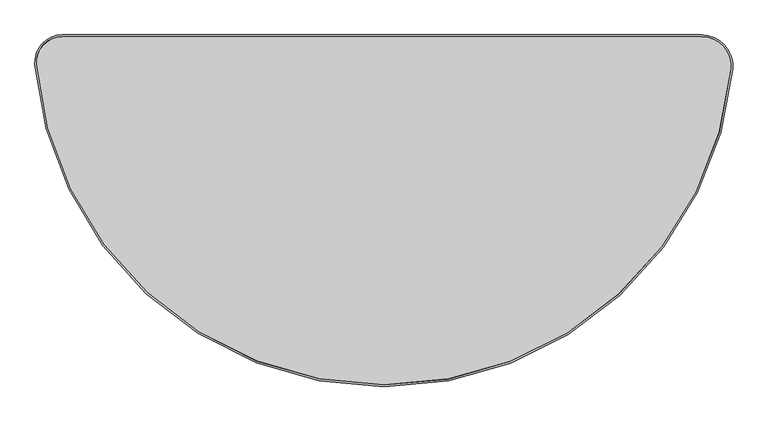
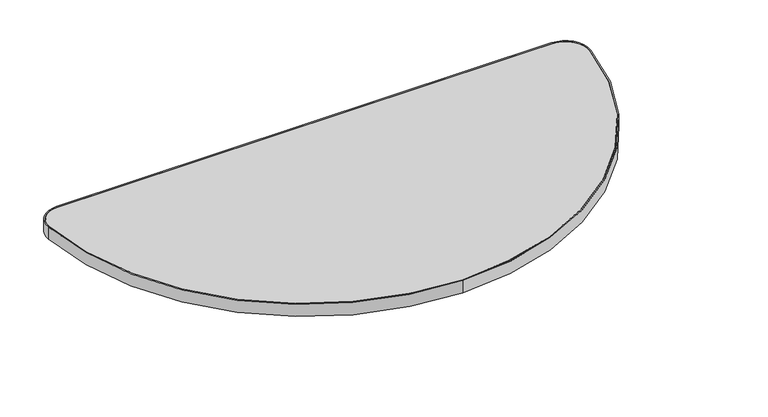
"""IFC4 building model written with IfcOpenShell, lengths in millimetres: furniture geometry, Steelcase - Groupwork - Table - Top - Half Round : 24D x 48W - HPL."""

from ifc_helpers import new_model, si_unit, point, frame, frame_2d, origin, place, context, project, spatial, polyline, circle_curve, trimmed, segment, composite_curve, outline, extrude, source, transform, mapped, element, save


def furniture_5754c508(model_context):
    return source(origin(), model_context, "Body", "SweptSolid", [
        extrude(outline(composite_curve([segment(polyline([(-555.8358043, 3.048), (551.3029021, 3.048)]), True, "CONTINUOUS"), segment(trimmed(circle_curve(frame_2d((551.3029021, -51.054)), 54.102), [point((551.3029021, 3.048))], [point((605.1756856, -56.0288966))], False, "CARTESIAN"), True, "CONTINUOUS"), segment(trimmed(circle_curve(frame_2d((1.1934925, -0.254)), 606.552), [point((605.1756856, -56.0288966))], [point((1.1934925, -606.806))], False, "CARTESIAN"), True, "CONTINUOUS"), segment(trimmed(circle_curve(frame_2d((1.1934925, -0.254)), 606.552), [point((1.1934925, -606.806))], [point((-603.4364897, -48.5024545))], False, "CARTESIAN"), True, "CONTINUOUS"), segment(trimmed(circle_curve(frame_2d((-555.8358043, -44.704)), 47.752), [point((-603.4364897, -48.5024545))], [point((-555.8358043, 3.048))], False, "CARTESIAN"), True, "CONTINUOUS")], self_intersect=False), holes=[composite_curve([segment(trimmed(circle_curve(frame_2d((1.1934925, -0.254)), 603.5801999), [point((1.1934925, -603.8341999))], [point((602.2164763, -55.7556276))], True, "CARTESIAN"), True, "CONTINUOUS"), segment(trimmed(circle_curve(frame_2d((551.3029021, -51.054)), 51.1301999), [point((602.2164763, -55.7556276))], [point((551.3029021, 0.0761999))], True, "CARTESIAN"), True, "CONTINUOUS"), segment(polyline([(551.3029021, 0.0761999), (-555.8358043, 0.0761999)]), True, "CONTINUOUS"), segment(trimmed(circle_curve(frame_2d((-555.8358043, -44.704)), 44.7801999), [point((-555.8358043, 0.0761999))], [point((-600.4741065, -48.2660614))], True, "CARTESIAN"), True, "CONTINUOUS"), segment(trimmed(circle_curve(frame_2d((1.1934925, -0.254)), 603.5801999), [point((-600.4741065, -48.2660614))], [point((1.1934925, -603.8341999))], True, "CARTESIAN"), True, "CONTINUOUS")], self_intersect=False)]), frame((0.0, 0.0, 695.579), z_axis=(0.0, 0.0, 1.0), x_axis=(1.0, 0.0, 0.0)), (0.0, 0.0, 1.0), 28.702),
        extrude(outline(composite_curve([segment(trimmed(circle_curve(frame_2d((551.3029021, -51.054)), 50.8), [point((551.3029021, -0.254))], [point((601.8876754, -55.7252644))], False, "CARTESIAN"), True, "CONTINUOUS"), segment(trimmed(circle_curve(frame_2d((1.1934925, -0.254)), 603.25), [point((601.8876754, -55.7252644))], [point((1.1934925, -603.504))], False, "CARTESIAN"), True, "CONTINUOUS"), segment(trimmed(circle_curve(frame_2d((1.1934925, -0.254)), 603.25), [point((1.1934925, -603.504))], [point((-600.1449529, -48.2397955))], False, "CARTESIAN"), True, "CONTINUOUS"), segment(trimmed(circle_curve(frame_2d((-555.8358043, -44.704)), 44.45), [point((-600.1449529, -48.2397955))], [point((-555.8358043, -0.254))], False, "CARTESIAN"), True, "CONTINUOUS"), segment(polyline([(-555.8358043, -0.254), (551.3029021, -0.254)]), True, "CONTINUOUS")], self_intersect=False)), frame((0.0, 0.0, 695.579), z_axis=(0.0, 0.0, 1.0), x_axis=(1.0, 0.0, 0.0)), (0.0, 0.0, 1.0), 28.702),
    ])


if __name__ == "__main__":
    model = new_model("IFC4")
    model_context = context("Model", 3, world=origin())
    ifc_project = project(units=[si_unit("LENGTHUNIT", "METRE", prefix="MILLI")], contexts=[model_context])
    site = spatial("IfcSite", under=ifc_project)
    building = spatial("IfcBuilding", under=site)
    placement = place(None, origin())
    furniture_shape = furniture_5754c508(model_context)
    element("IfcFurniture", 1, ObjectType="Steelcase - Groupwork - Table - Top - Half Round : 24D x 48W - HPL", at=placement, inside=building, context=model_context, shape_type="MappedRepresentation", body=[
        mapped(furniture_shape, transform((0.0, 0.0, 0.0), x_axis=(1.0, 0.0, 0.0), y_axis=(0.0, 1.0, 0.0), z_axis=(0.0, 0.0, 1.0))),
    ])
    save(model, "model.ifc")
